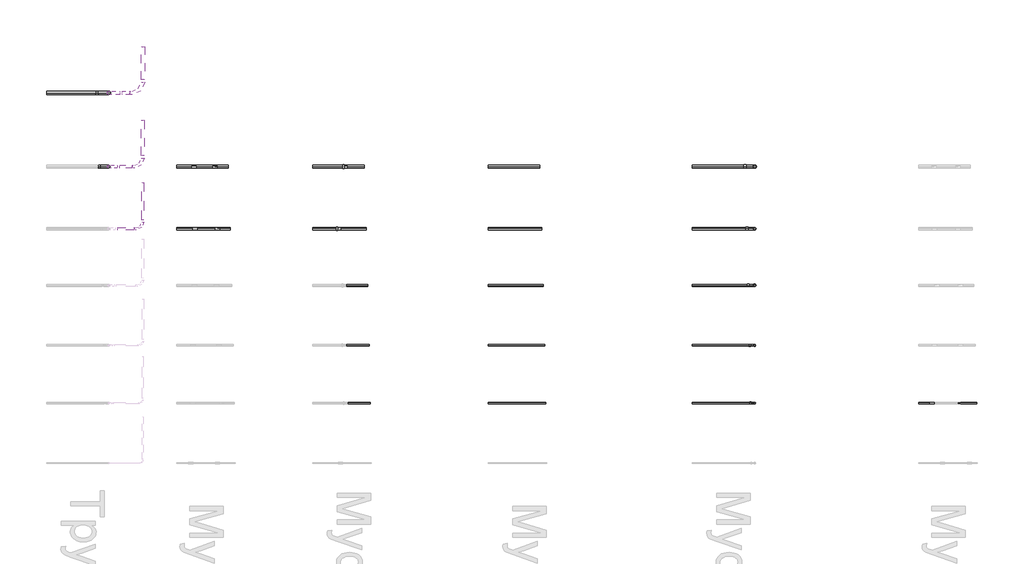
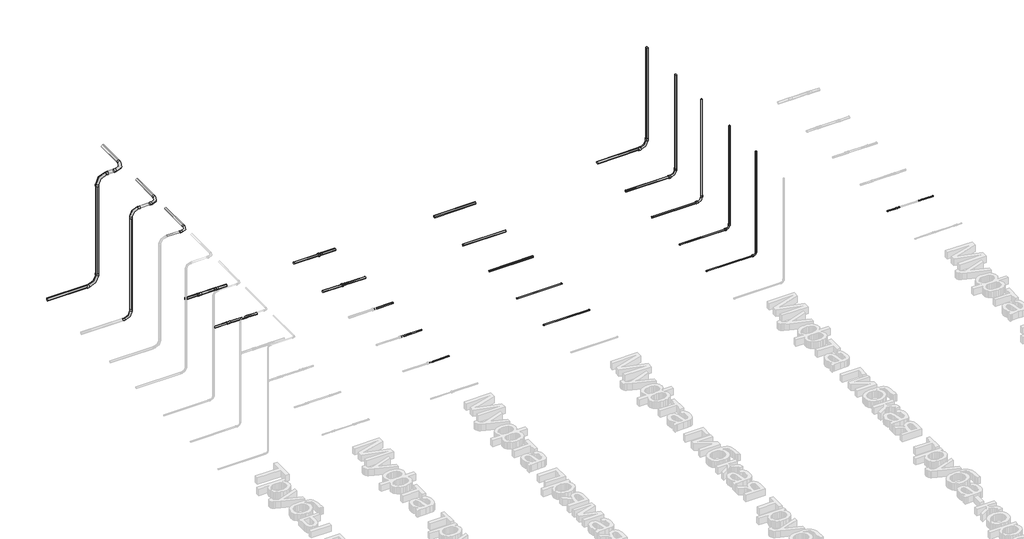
# One storey, part 3 of 33: 39 cable carrier segments, 19 cable carrier fittings.
"""IFC4 building model written with IfcOpenShell, lengths in millimetres."""

from ifc_helpers import new_model, si_unit, point, frame, frame_2d, origin, place, context, project, spatial, circle_curve, trimmed, segment, composite_curve, outline, extrude, transform, mapped, element, save
from components import cable_carrier_fitting_6d3d2407, cable_carrier_fitting_cf892bee, cable_carrier_fitting_59e1ce25, cable_carrier_fitting_115ec05a, cable_carrier_fitting_ce611bea, cable_carrier_fitting_d8a5bbfc, cable_carrier_fitting_d79e1a75, cable_carrier_fitting_36980800, cable_carrier_fitting_822ce13a, cable_carrier_fitting_3f3ece2e, cable_carrier_fitting_24dc891e, cable_carrier_fitting_b2184ef0, cable_carrier_fitting_5bff6149

model = new_model("IFC4")

# Units and contexts
model_context = context("Model", 3, world=origin())
ifc_project = project(units=[si_unit("LENGTHUNIT", "METRE", prefix="MILLI")], contexts=[model_context])

# Site, building, storey
site = spatial("IfcSite", under=ifc_project)
building = spatial("IfcBuilding", under=site)
storey = spatial("IfcBuildingStorey", under=building, Name="Уровень 1", Elevation=0.0)

# Cable carrier fittings
placement = place(None, origin())
cable_carrier_fitting_shape = cable_carrier_fitting_6d3d2407(model_context)
element("IfcCableCarrierFitting", 1, ObjectType="Муфта труба-труба GIG IEK : CTA10D-GIG40-K41-020", at=placement, inside=storey, context=model_context, shape_type="MappedRepresentation", body=[
    mapped(cable_carrier_fitting_shape, transform((5316.9896272, 4107.6255993, 45.929251), x_axis=(1.0, 0.0, 0.0), y_axis=(0.0, 1.0, 0.0), z_axis=(0.0, 0.0, 1.0))),
])
element("IfcCableCarrierFitting", 2, ObjectType="Муфта труба-труба GIG IEK : CTA10D-GIG40-K41-020", at=placement, inside=storey, context=model_context, shape_type="MappedRepresentation", body=[
    mapped(cable_carrier_fitting_shape, transform((5710.1466124, 4107.6255993, 45.929251), x_axis=(1.0, 0.0, 0.0), y_axis=(0.0, 1.0, 0.0), z_axis=(0.0, 0.0, 1.0))),
])
cable_carrier_fitting_2_shape = cable_carrier_fitting_cf892bee(model_context)
element("IfcCableCarrierFitting", 3, ObjectType="Муфта труба-труба GIG IEK : CTA10D-GIG50-K41-020", at=placement, inside=storey, context=model_context, shape_type="MappedRepresentation", body=[
    mapped(cable_carrier_fitting_2_shape, transform((5300.709765, 5207.6255993, 45.929251), x_axis=(1.0, 0.0, 0.0), y_axis=(0.0, 1.0, 0.0), z_axis=(0.0, 0.0, 1.0))),
])
element("IfcCableCarrierFitting", 4, ObjectType="Муфта труба-труба GIG IEK : CTA10D-GIG50-K41-020", at=placement, inside=storey, context=model_context, shape_type="MappedRepresentation", body=[
    mapped(cable_carrier_fitting_2_shape, transform((5670.3309234, 5207.6255993, 45.929251), x_axis=(1.0, 0.0, 0.0), y_axis=(0.0, 1.0, 0.0), z_axis=(0.0, 0.0, 1.0))),
])
cable_carrier_fitting_3_shape = cable_carrier_fitting_59e1ce25(model_context)
element("IfcCableCarrierFitting", 5, ObjectType="Муфта труба-труба IP65 MS : CTA10D-MS20-K41-050", at=placement, inside=storey, context=model_context, shape_type="MappedRepresentation", body=[
    mapped(cable_carrier_fitting_3_shape, transform((18323.8944171, 1027.6255993, 45.929251), x_axis=(1.0, 0.0, 0.0), y_axis=(0.0, 1.0, 0.0), z_axis=(0.0, 0.0, 1.0))),
])
cable_carrier_fitting_4_shape = cable_carrier_fitting_115ec05a(model_context)
element("IfcCableCarrierFitting", 6, ObjectType="Муфта прямая труба-коробка BS : CTA10D-BS40-K41-025", at=placement, inside=storey, context=model_context, shape_type="MappedRepresentation", body=[
    mapped(cable_carrier_fitting_4_shape, transform((7850.2312344, 4107.6255993, 45.929251), x_axis=(0.9999999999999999, 0.0, 0.0), y_axis=(0.0, 0.9999999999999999, 0.0), z_axis=(0.0, 0.0, 0.9999999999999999))),
])
cable_carrier_fitting_5_shape = cable_carrier_fitting_ce611bea(model_context)
element("IfcCableCarrierFitting", 7, ObjectType="Муфта прямая труба-коробка BS : CTA10D-BS50-K41-015", at=placement, inside=storey, context=model_context, shape_type="MappedRepresentation", body=[
    mapped(cable_carrier_fitting_5_shape, transform((7966.70062, 5207.6255993, 45.929251), x_axis=(0.9999999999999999, 0.0, 0.0), y_axis=(0.0, 0.9999999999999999, 0.0), z_axis=(0.0, 0.0, 0.9999999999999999))),
])
cable_carrier_fitting_6_shape = cable_carrier_fitting_d8a5bbfc(model_context)
element("IfcCableCarrierFitting", 8, ObjectType="Отвод Трубы гладкие жесткие ПВХ : Отвод Трубы гладкие жесткие ПВХ", at=placement, inside=storey, context=model_context, shape_type="MappedRepresentation", body=[
    mapped(cable_carrier_fitting_6_shape, transform((4394.4472755, 4107.6255993, 2545.929251), x_axis=(1.0, 0.0, 0.0), y_axis=(0.0, 1.0, 0.0), z_axis=(0.0, 0.0, 1.0))),
])
cable_carrier_fitting_7_shape = cable_carrier_fitting_d79e1a75(model_context)
element("IfcCableCarrierFitting", 9, ObjectType="Отвод Трубы гладкие жесткие ПВХ : Отвод Трубы гладкие жесткие ПВХ", at=placement, inside=storey, context=model_context, shape_type="MappedRepresentation", body=[
    mapped(cable_carrier_fitting_7_shape, transform((3794.4472755, 5207.6255993, 45.929251), x_axis=(1.0, 0.0, 0.0), y_axis=(0.0, 0.0, 1.0), z_axis=(0.0, -1.0, 0.0))),
])
element("IfcCableCarrierFitting", 10, ObjectType="Отвод Трубы гладкие жесткие ПВХ : Отвод Трубы гладкие жесткие ПВХ", at=placement, inside=storey, context=model_context, shape_type="MappedRepresentation", body=[
    mapped(cable_carrier_fitting_7_shape, transform((3794.4472755, 5207.6255993, 2545.929251), x_axis=(0.0, 0.0, 1.0), y_axis=(1.0, 0.0, 0.0), z_axis=(0.0, 1.0, 0.0))),
])
element("IfcCableCarrierFitting", 11, ObjectType="Отвод Трубы гладкие жесткие ПВХ : Отвод Трубы гладкие жесткие ПВХ", at=placement, inside=storey, context=model_context, shape_type="MappedRepresentation", body=[
    mapped(cable_carrier_fitting_7_shape, transform((4394.4472755, 5207.6255993, 2545.929251), x_axis=(1.0, 0.0, 0.0), y_axis=(0.0, 1.0, 0.0), z_axis=(0.0, 0.0, 1.0))),
])
cable_carrier_fitting_8_shape = cable_carrier_fitting_36980800(model_context)
element("IfcCableCarrierFitting", 12, ObjectType="Отвод Трубы гладкие жесткие ПВХ : Отвод Трубы гладкие жесткие ПВХ", at=placement, inside=storey, context=model_context, shape_type="MappedRepresentation", body=[
    mapped(cable_carrier_fitting_8_shape, transform((3794.4472755, 6507.6255993, 45.929251), x_axis=(1.0, 0.0, 0.0), y_axis=(0.0, 0.0, 1.0), z_axis=(0.0, -1.0, 0.0))),
])
element("IfcCableCarrierFitting", 13, ObjectType="Отвод Трубы гладкие жесткие ПВХ : Отвод Трубы гладкие жесткие ПВХ", at=placement, inside=storey, context=model_context, shape_type="MappedRepresentation", body=[
    mapped(cable_carrier_fitting_8_shape, transform((3794.4472755, 6507.6255993, 2545.929251), x_axis=(0.0, 0.0, 1.0), y_axis=(1.0, 0.0, 0.0), z_axis=(0.0, 1.0, 0.0))),
])
element("IfcCableCarrierFitting", 14, ObjectType="Отвод Трубы гладкие жесткие ПВХ : Отвод Трубы гладкие жесткие ПВХ", at=placement, inside=storey, context=model_context, shape_type="MappedRepresentation", body=[
    mapped(cable_carrier_fitting_8_shape, transform((4394.4472755, 6507.6255993, 2545.929251), x_axis=(1.0, 0.0, 0.0), y_axis=(0.0, 1.0, 0.0), z_axis=(0.0, 0.0, 1.0))),
])
cable_carrier_fitting_9_shape = cable_carrier_fitting_822ce13a(model_context)
element("IfcCableCarrierFitting", 15, ObjectType="Муфта гибкая труба-коробка CXS : Муфта гибкая труба-коробка CXS", at=placement, inside=storey, context=model_context, shape_type="MappedRepresentation", body=[
    mapped(cable_carrier_fitting_9_shape, transform((15194.4472755, 1027.6255993, 45.929251), x_axis=(1.0, 0.0, 0.0), y_axis=(0.0, 0.0, 1.0), z_axis=(0.0, -1.0, 0.0))),
])
cable_carrier_fitting_10_shape = cable_carrier_fitting_3f3ece2e(model_context)
element("IfcCableCarrierFitting", 16, ObjectType="Муфта гибкая труба-коробка CXS : Муфта гибкая труба-коробка CXS", at=placement, inside=storey, context=model_context, shape_type="MappedRepresentation", body=[
    mapped(cable_carrier_fitting_10_shape, transform((15194.4472755, 2047.6255993, 45.929251), x_axis=(1.0, 0.0, 0.0), y_axis=(0.0, 0.0, 1.0), z_axis=(0.0, -1.0, 0.0))),
])
cable_carrier_fitting_11_shape = cable_carrier_fitting_24dc891e(model_context)
element("IfcCableCarrierFitting", 17, ObjectType="Муфта гибкая труба-коробка CXS : Муфта гибкая труба-коробка CXS", at=placement, inside=storey, context=model_context, shape_type="MappedRepresentation", body=[
    mapped(cable_carrier_fitting_11_shape, transform((15194.4472755, 3107.6255993, 45.929251), x_axis=(1.0, 0.0, 0.0), y_axis=(0.0, 0.0, 1.0), z_axis=(0.0, -1.0, 0.0))),
])
cable_carrier_fitting_12_shape = cable_carrier_fitting_b2184ef0(model_context)
element("IfcCableCarrierFitting", 18, ObjectType="Муфта гибкая труба-коробка CXS : Муфта гибкая труба-коробка CXS", at=placement, inside=storey, context=model_context, shape_type="MappedRepresentation", body=[
    mapped(cable_carrier_fitting_12_shape, transform((15194.4472755, 4107.6255993, 45.929251), x_axis=(1.0, 0.0, 0.0), y_axis=(0.0, 0.0, 1.0), z_axis=(0.0, -1.0, 0.0))),
])
cable_carrier_fitting_13_shape = cable_carrier_fitting_5bff6149(model_context)
element("IfcCableCarrierFitting", 19, ObjectType="Муфта гибкая труба-коробка CXS : Муфта гибкая труба-коробка CXS", at=placement, inside=storey, context=model_context, shape_type="MappedRepresentation", body=[
    mapped(cable_carrier_fitting_13_shape, transform((15194.4472755, 5207.6255993, 45.929251), x_axis=(1.0, 0.0, 0.0), y_axis=(0.0, 0.0, 1.0), z_axis=(0.0, -1.0, 0.0))),
])

# Cable carrier segments
element("IfcCableCarrierSegment", 20, ObjectType="Трубы гладкие жесткие ПВХ", at=placement, inside=storey, context=model_context, shape_type="SweptSolid", body=[
    extrude(outline(composite_curve([segment(trimmed(circle_curve(frame_2d((4107.6255993, 2545.929251)), 20.0), [point((4087.6255993, 2545.929251))], [point((4107.6255993, 2565.929251))], False, "CARTESIAN"), True, "CONTINUOUS"), segment(trimmed(circle_curve(frame_2d((4107.6255993, 2545.929251)), 20.0), [point((4107.6255993, 2565.929251))], [point((4127.6255993, 2545.929251))], False, "CARTESIAN"), True, "CONTINUOUS"), segment(trimmed(circle_curve(frame_2d((4107.6255993, 2545.929251)), 20.0), [point((4127.6255993, 2545.929251))], [point((4107.6255993, 2525.929251))], False, "CARTESIAN"), True, "CONTINUOUS"), segment(trimmed(circle_curve(frame_2d((4107.6255993, 2545.929251)), 20.0), [point((4107.6255993, 2525.929251))], [point((4087.6255993, 2545.929251))], False, "CARTESIAN"), True, "CONTINUOUS")], self_intersect=False)), frame((3950.5302755, 0.0, 0.0), z_axis=(1.0, 0.0, 0.0), x_axis=(0.0, 1.0, 0.0)), (0.0, 0.0, 1.0), 287.834),
])
element("IfcCableCarrierSegment", 21, ObjectType="Трубы гладкие жесткие ПВХ", at=placement, inside=storey, context=model_context, shape_type="SweptSolid", body=[
    extrude(outline(composite_curve([segment(trimmed(circle_curve(frame_2d((2545.929251, 4394.4472755)), 20.0), [point((2545.929251, 4414.4472755))], [point((2565.929251, 4394.4472755))], False, "CARTESIAN"), True, "CONTINUOUS"), segment(trimmed(circle_curve(frame_2d((2545.929251, 4394.4472755)), 20.0), [point((2565.929251, 4394.4472755))], [point((2545.929251, 4374.4472755))], False, "CARTESIAN"), True, "CONTINUOUS"), segment(trimmed(circle_curve(frame_2d((2545.929251, 4394.4472755)), 20.0), [point((2545.929251, 4374.4472755))], [point((2525.929251, 4394.4472755))], False, "CARTESIAN"), True, "CONTINUOUS"), segment(trimmed(circle_curve(frame_2d((2545.929251, 4394.4472755)), 20.0), [point((2525.929251, 4394.4472755))], [point((2545.929251, 4414.4472755))], False, "CARTESIAN"), True, "CONTINUOUS")], self_intersect=False)), frame((0.0, 4263.7085993, 0.0), z_axis=(0.0, 1.0, 0.0), x_axis=(0.0, 0.0, 1.0)), (0.0, 0.0, 1.0), 663.917),
])
element("IfcCableCarrierSegment", 22, ObjectType="Трубы гладкие жесткие ПВХ", at=placement, inside=storey, context=model_context, shape_type="SweptSolid", body=[
    extrude(outline(composite_curve([segment(trimmed(circle_curve(frame_2d((5207.6255993, 2545.929251)), 25.0), [point((5182.6255993, 2545.929251))], [point((5207.6255993, 2570.929251))], False, "CARTESIAN"), True, "CONTINUOUS"), segment(trimmed(circle_curve(frame_2d((5207.6255993, 2545.929251)), 25.0), [point((5207.6255993, 2570.929251))], [point((5232.6255993, 2545.929251))], False, "CARTESIAN"), True, "CONTINUOUS"), segment(trimmed(circle_curve(frame_2d((5207.6255993, 2545.929251)), 25.0), [point((5232.6255993, 2545.929251))], [point((5207.6255993, 2520.929251))], False, "CARTESIAN"), True, "CONTINUOUS"), segment(trimmed(circle_curve(frame_2d((5207.6255993, 2545.929251)), 25.0), [point((5207.6255993, 2520.929251))], [point((5182.6255993, 2545.929251))], False, "CARTESIAN"), True, "CONTINUOUS")], self_intersect=False)), frame((3984.9218755, 0.0, 0.0), z_axis=(1.0, 0.0, 0.0), x_axis=(0.0, 1.0, 0.0)), (0.0, 0.0, 1.0), 219.0508),
])
element("IfcCableCarrierSegment", 23, ObjectType="Трубы гладкие жесткие ПВХ", at=placement, inside=storey, context=model_context, shape_type="SweptSolid", body=[
    extrude(outline(composite_curve([segment(trimmed(circle_curve(frame_2d((3794.4472755, 5207.6255993)), 25.0), [point((3769.4472755, 5207.6255993))], [point((3794.4472755, 5232.6255993))], False, "CARTESIAN"), True, "CONTINUOUS"), segment(trimmed(circle_curve(frame_2d((3794.4472755, 5207.6255993)), 25.0), [point((3794.4472755, 5232.6255993))], [point((3819.4472755, 5207.6255993))], False, "CARTESIAN"), True, "CONTINUOUS"), segment(trimmed(circle_curve(frame_2d((3794.4472755, 5207.6255993)), 25.0), [point((3819.4472755, 5207.6255993))], [point((3794.4472755, 5182.6255993))], False, "CARTESIAN"), True, "CONTINUOUS"), segment(trimmed(circle_curve(frame_2d((3794.4472755, 5207.6255993)), 25.0), [point((3794.4472755, 5182.6255993))], [point((3769.4472755, 5207.6255993))], False, "CARTESIAN"), True, "CONTINUOUS")], self_intersect=False)), frame((0.0, 0.0, 236.403851), z_axis=(0.0, 0.0, 1.0), x_axis=(1.0, 0.0, 0.0)), (0.0, 0.0, 1.0), 2119.0508),
])
element("IfcCableCarrierSegment", 24, ObjectType="Трубы гладкие жесткие ПВХ", at=placement, inside=storey, context=model_context, shape_type="SweptSolid", body=[
    extrude(outline(composite_curve([segment(trimmed(circle_curve(frame_2d((2545.929251, 4394.4472755)), 25.0), [point((2545.929251, 4419.4472755))], [point((2570.929251, 4394.4472755))], False, "CARTESIAN"), True, "CONTINUOUS"), segment(trimmed(circle_curve(frame_2d((2545.929251, 4394.4472755)), 25.0), [point((2570.929251, 4394.4472755))], [point((2545.929251, 4369.4472755))], False, "CARTESIAN"), True, "CONTINUOUS"), segment(trimmed(circle_curve(frame_2d((2545.929251, 4394.4472755)), 25.0), [point((2545.929251, 4369.4472755))], [point((2520.929251, 4394.4472755))], False, "CARTESIAN"), True, "CONTINUOUS"), segment(trimmed(circle_curve(frame_2d((2545.929251, 4394.4472755)), 25.0), [point((2520.929251, 4394.4472755))], [point((2545.929251, 4419.4472755))], False, "CARTESIAN"), True, "CONTINUOUS")], self_intersect=False)), frame((0.0, 5398.1001993, 0.0), z_axis=(0.0, 1.0, 0.0), x_axis=(0.0, 0.0, 1.0)), (0.0, 0.0, 1.0), 629.5254),
])
element("IfcCableCarrierSegment", 25, ObjectType="Трубы гладкие жесткие ПВХ", at=placement, inside=storey, context=model_context, shape_type="SweptSolid", body=[
    extrude(outline(composite_curve([segment(trimmed(circle_curve(frame_2d((6507.6255993, 45.929251)), 31.5), [point((6476.1255993, 45.929251))], [point((6507.6255993, 77.429251))], False, "CARTESIAN"), True, "CONTINUOUS"), segment(trimmed(circle_curve(frame_2d((6507.6255993, 45.929251)), 31.5), [point((6507.6255993, 77.429251))], [point((6539.1255993, 45.929251))], False, "CARTESIAN"), True, "CONTINUOUS"), segment(trimmed(circle_curve(frame_2d((6507.6255993, 45.929251)), 31.5), [point((6539.1255993, 45.929251))], [point((6507.6255993, 14.429251))], False, "CARTESIAN"), True, "CONTINUOUS"), segment(trimmed(circle_curve(frame_2d((6507.6255993, 45.929251)), 31.5), [point((6507.6255993, 14.429251))], [point((6476.1255993, 45.929251))], False, "CARTESIAN"), True, "CONTINUOUS")], self_intersect=False)), frame((2694.4472755, 0.0, 0.0), z_axis=(1.0, 0.0, 0.0), x_axis=(0.0, 1.0, 0.0)), (0.0, 0.0, 1.0), 867.02),
])
element("IfcCableCarrierSegment", 26, ObjectType="Трубы гладкие жесткие ПВХ", at=placement, inside=storey, context=model_context, shape_type="SweptSolid", body=[
    extrude(outline(composite_curve([segment(trimmed(circle_curve(frame_2d((6507.6255993, 2545.929251)), 31.5), [point((6476.1255993, 2545.929251))], [point((6507.6255993, 2577.429251))], False, "CARTESIAN"), True, "CONTINUOUS"), segment(trimmed(circle_curve(frame_2d((6507.6255993, 2545.929251)), 31.5), [point((6507.6255993, 2577.429251))], [point((6539.1255993, 2545.929251))], False, "CARTESIAN"), True, "CONTINUOUS"), segment(trimmed(circle_curve(frame_2d((6507.6255993, 2545.929251)), 31.5), [point((6539.1255993, 2545.929251))], [point((6507.6255993, 2514.429251))], False, "CARTESIAN"), True, "CONTINUOUS"), segment(trimmed(circle_curve(frame_2d((6507.6255993, 2545.929251)), 31.5), [point((6507.6255993, 2514.429251))], [point((6476.1255993, 2545.929251))], False, "CARTESIAN"), True, "CONTINUOUS")], self_intersect=False)), frame((4027.4272755, 0.0, 0.0), z_axis=(1.0, 0.0, 0.0), x_axis=(0.0, 1.0, 0.0)), (0.0, 0.0, 1.0), 134.04),
])
element("IfcCableCarrierSegment", 27, ObjectType="Трубы гладкие жесткие ПВХ", at=placement, inside=storey, context=model_context, shape_type="SweptSolid", body=[
    extrude(outline(composite_curve([segment(trimmed(circle_curve(frame_2d((3794.4472755, 6507.6255993)), 31.5), [point((3762.9472755, 6507.6255993))], [point((3794.4472755, 6539.1255993))], False, "CARTESIAN"), True, "CONTINUOUS"), segment(trimmed(circle_curve(frame_2d((3794.4472755, 6507.6255993)), 31.5), [point((3794.4472755, 6539.1255993))], [point((3825.9472755, 6507.6255993))], False, "CARTESIAN"), True, "CONTINUOUS"), segment(trimmed(circle_curve(frame_2d((3794.4472755, 6507.6255993)), 31.5), [point((3825.9472755, 6507.6255993))], [point((3794.4472755, 6476.1255993))], False, "CARTESIAN"), True, "CONTINUOUS"), segment(trimmed(circle_curve(frame_2d((3794.4472755, 6507.6255993)), 31.5), [point((3794.4472755, 6476.1255993))], [point((3762.9472755, 6507.6255993))], False, "CARTESIAN"), True, "CONTINUOUS")], self_intersect=False)), frame((0.0, 0.0, 278.909251), z_axis=(0.0, 0.0, 1.0), x_axis=(1.0, 0.0, 0.0)), (0.0, 0.0, 1.0), 2034.04),
])
element("IfcCableCarrierSegment", 28, ObjectType="Трубы гладкие жесткие ПВХ", at=placement, inside=storey, context=model_context, shape_type="SweptSolid", body=[
    extrude(outline(composite_curve([segment(trimmed(circle_curve(frame_2d((2545.929251, 4394.4472755)), 31.5), [point((2545.929251, 4425.9472755))], [point((2577.429251, 4394.4472755))], False, "CARTESIAN"), True, "CONTINUOUS"), segment(trimmed(circle_curve(frame_2d((2545.929251, 4394.4472755)), 31.5), [point((2577.429251, 4394.4472755))], [point((2545.929251, 4362.9472755))], False, "CARTESIAN"), True, "CONTINUOUS"), segment(trimmed(circle_curve(frame_2d((2545.929251, 4394.4472755)), 31.5), [point((2545.929251, 4362.9472755))], [point((2514.429251, 4394.4472755))], False, "CARTESIAN"), True, "CONTINUOUS"), segment(trimmed(circle_curve(frame_2d((2545.929251, 4394.4472755)), 31.5), [point((2514.429251, 4394.4472755))], [point((2545.929251, 4425.9472755))], False, "CARTESIAN"), True, "CONTINUOUS")], self_intersect=False)), frame((0.0, 6740.6055993, 0.0), z_axis=(0.0, 1.0, 0.0), x_axis=(0.0, 0.0, 1.0)), (0.0, 0.0, 1.0), 587.02),
])
element("IfcCableCarrierSegment", 29, ObjectType="Трубы гладкие жесткие ПВХ", at=placement, inside=storey, context=model_context, shape_type="SweptSolid", body=[
    extrude(outline(composite_curve([segment(trimmed(circle_curve(frame_2d((4107.6255993, 45.929251)), 20.0), [point((4087.6255993, 45.929251))], [point((4107.6255993, 65.929251))], False, "CARTESIAN"), True, "CONTINUOUS"), segment(trimmed(circle_curve(frame_2d((4107.6255993, 45.929251)), 20.0), [point((4107.6255993, 65.929251))], [point((4127.6255993, 45.929251))], False, "CARTESIAN"), True, "CONTINUOUS"), segment(trimmed(circle_curve(frame_2d((4107.6255993, 45.929251)), 20.0), [point((4127.6255993, 45.929251))], [point((4107.6255993, 25.929251))], False, "CARTESIAN"), True, "CONTINUOUS"), segment(trimmed(circle_curve(frame_2d((4107.6255993, 45.929251)), 20.0), [point((4107.6255993, 25.929251))], [point((4087.6255993, 45.929251))], False, "CARTESIAN"), True, "CONTINUOUS")], self_intersect=False)), frame((5715.1466124, 0.0, 0.0), z_axis=(1.0, 0.0, 0.0), x_axis=(0.0, 1.0, 0.0)), (0.0, 0.0, 1.0), 223.2176631),
])
element("IfcCableCarrierSegment", 30, ObjectType="Трубы гладкие жесткие ПВХ", at=placement, inside=storey, context=model_context, shape_type="SweptSolid", body=[
    extrude(outline(composite_curve([segment(trimmed(circle_curve(frame_2d((5207.6255993, 45.929251)), 25.0), [point((5182.6255993, 45.929251))], [point((5207.6255993, 70.929251))], False, "CARTESIAN"), True, "CONTINUOUS"), segment(trimmed(circle_curve(frame_2d((5207.6255993, 45.929251)), 25.0), [point((5207.6255993, 70.929251))], [point((5232.6255993, 45.929251))], False, "CARTESIAN"), True, "CONTINUOUS"), segment(trimmed(circle_curve(frame_2d((5207.6255993, 45.929251)), 25.0), [point((5232.6255993, 45.929251))], [point((5207.6255993, 20.929251))], False, "CARTESIAN"), True, "CONTINUOUS"), segment(trimmed(circle_curve(frame_2d((5207.6255993, 45.929251)), 25.0), [point((5207.6255993, 20.929251))], [point((5182.6255993, 45.929251))], False, "CARTESIAN"), True, "CONTINUOUS")], self_intersect=False)), frame((5675.3309234, 0.0, 0.0), z_axis=(1.0, 0.0, 0.0), x_axis=(0.0, 1.0, 0.0)), (0.0, 0.0, 1.0), 228.641752),
])
element("IfcCableCarrierSegment", 31, ObjectType="Трубы гладкие жесткие ПВХ", at=placement, inside=storey, context=model_context, shape_type="SweptSolid", body=[
    extrude(outline(composite_curve([segment(trimmed(circle_curve(frame_2d((4107.6255993, 45.929251)), 20.0), [point((4087.6255993, 45.929251))], [point((4107.6255993, 65.929251))], False, "CARTESIAN"), True, "CONTINUOUS"), segment(trimmed(circle_curve(frame_2d((4107.6255993, 45.929251)), 20.0), [point((4107.6255993, 65.929251))], [point((4127.6255993, 45.929251))], False, "CARTESIAN"), True, "CONTINUOUS"), segment(trimmed(circle_curve(frame_2d((4107.6255993, 45.929251)), 20.0), [point((4127.6255993, 45.929251))], [point((4107.6255993, 25.929251))], False, "CARTESIAN"), True, "CONTINUOUS"), segment(trimmed(circle_curve(frame_2d((4107.6255993, 45.929251)), 20.0), [point((4107.6255993, 25.929251))], [point((4087.6255993, 45.929251))], False, "CARTESIAN"), True, "CONTINUOUS")], self_intersect=False)), frame((4994.4472755, 0.0, 0.0), z_axis=(1.0, 0.0, 0.0), x_axis=(0.0, 1.0, 0.0)), (0.0, 0.0, 1.0), 317.5423517),
])
element("IfcCableCarrierSegment", 32, ObjectType="Трубы гладкие жесткие ПВХ", at=placement, inside=storey, context=model_context, shape_type="SweptSolid", body=[
    extrude(outline(composite_curve([segment(trimmed(circle_curve(frame_2d((4107.6255993, 45.929251)), 20.0), [point((4087.6255993, 45.929251))], [point((4107.6255993, 65.929251))], False, "CARTESIAN"), True, "CONTINUOUS"), segment(trimmed(circle_curve(frame_2d((4107.6255993, 45.929251)), 20.0), [point((4107.6255993, 65.929251))], [point((4127.6255993, 45.929251))], False, "CARTESIAN"), True, "CONTINUOUS"), segment(trimmed(circle_curve(frame_2d((4107.6255993, 45.929251)), 20.0), [point((4127.6255993, 45.929251))], [point((4107.6255993, 25.929251))], False, "CARTESIAN"), True, "CONTINUOUS"), segment(trimmed(circle_curve(frame_2d((4107.6255993, 45.929251)), 20.0), [point((4107.6255993, 25.929251))], [point((4087.6255993, 45.929251))], False, "CARTESIAN"), True, "CONTINUOUS")], self_intersect=False)), frame((5321.9896272, 0.0, 0.0), z_axis=(1.0, 0.0, 0.0), x_axis=(0.0, 1.0, 0.0)), (0.0, 0.0, 1.0), 383.1569852),
])
element("IfcCableCarrierSegment", 33, ObjectType="Трубы гладкие жесткие ПВХ", at=placement, inside=storey, context=model_context, shape_type="SweptSolid", body=[
    extrude(outline(composite_curve([segment(trimmed(circle_curve(frame_2d((5207.6255993, 45.929251)), 25.0), [point((5182.6255993, 45.929251))], [point((5207.6255993, 70.929251))], False, "CARTESIAN"), True, "CONTINUOUS"), segment(trimmed(circle_curve(frame_2d((5207.6255993, 45.929251)), 25.0), [point((5207.6255993, 70.929251))], [point((5232.6255993, 45.929251))], False, "CARTESIAN"), True, "CONTINUOUS"), segment(trimmed(circle_curve(frame_2d((5207.6255993, 45.929251)), 25.0), [point((5232.6255993, 45.929251))], [point((5207.6255993, 20.929251))], False, "CARTESIAN"), True, "CONTINUOUS"), segment(trimmed(circle_curve(frame_2d((5207.6255993, 45.929251)), 25.0), [point((5207.6255993, 20.929251))], [point((5182.6255993, 45.929251))], False, "CARTESIAN"), True, "CONTINUOUS")], self_intersect=False)), frame((4994.4472755, 0.0, 0.0), z_axis=(1.0, 0.0, 0.0), x_axis=(0.0, 1.0, 0.0)), (0.0, 0.0, 1.0), 301.2624895),
])
element("IfcCableCarrierSegment", 34, ObjectType="Трубы гладкие жесткие ПВХ", at=placement, inside=storey, context=model_context, shape_type="SweptSolid", body=[
    extrude(outline(composite_curve([segment(trimmed(circle_curve(frame_2d((5207.6255993, 45.929251)), 25.0), [point((5182.6255993, 45.929251))], [point((5207.6255993, 70.929251))], False, "CARTESIAN"), True, "CONTINUOUS"), segment(trimmed(circle_curve(frame_2d((5207.6255993, 45.929251)), 25.0), [point((5207.6255993, 70.929251))], [point((5232.6255993, 45.929251))], False, "CARTESIAN"), True, "CONTINUOUS"), segment(trimmed(circle_curve(frame_2d((5207.6255993, 45.929251)), 25.0), [point((5232.6255993, 45.929251))], [point((5207.6255993, 20.929251))], False, "CARTESIAN"), True, "CONTINUOUS"), segment(trimmed(circle_curve(frame_2d((5207.6255993, 45.929251)), 25.0), [point((5207.6255993, 20.929251))], [point((5182.6255993, 45.929251))], False, "CARTESIAN"), True, "CONTINUOUS")], self_intersect=False)), frame((5305.709765, 0.0, 0.0), z_axis=(1.0, 0.0, 0.0), x_axis=(0.0, 1.0, 0.0)), (0.0, 0.0, 1.0), 359.6211584),
])
element("IfcCableCarrierSegment", 35, ObjectType="Трубы гладкие жесткие ПВХ", at=placement, inside=storey, context=model_context, shape_type="SweptSolid", body=[
    extrude(outline(composite_curve([segment(trimmed(circle_curve(frame_2d((1027.6255993, 45.929251)), 10.0), [point((1017.6255993, 45.929251))], [point((1027.6255993, 55.929251))], False, "CARTESIAN"), True, "CONTINUOUS"), segment(trimmed(circle_curve(frame_2d((1027.6255993, 45.929251)), 10.0), [point((1027.6255993, 55.929251))], [point((1037.6255993, 45.929251))], False, "CARTESIAN"), True, "CONTINUOUS"), segment(trimmed(circle_curve(frame_2d((1027.6255993, 45.929251)), 10.0), [point((1037.6255993, 45.929251))], [point((1027.6255993, 35.929251))], False, "CARTESIAN"), True, "CONTINUOUS"), segment(trimmed(circle_curve(frame_2d((1027.6255993, 45.929251)), 10.0), [point((1027.6255993, 35.929251))], [point((1017.6255993, 45.929251))], False, "CARTESIAN"), True, "CONTINUOUS")], self_intersect=False)), frame((7972.6618975, 0.0, 0.0), z_axis=(1.0, 0.0, 0.0), x_axis=(0.0, 1.0, 0.0)), (0.0, 0.0, 1.0), 438.295578),
])
element("IfcCableCarrierSegment", 36, ObjectType="Трубы гладкие жесткие ПВХ", at=placement, inside=storey, context=model_context, shape_type="SweptSolid", body=[
    extrude(outline(composite_curve([segment(trimmed(circle_curve(frame_2d((2047.6255993, 45.929251)), 12.5), [point((2035.1255993, 45.929251))], [point((2047.6255993, 58.429251))], False, "CARTESIAN"), True, "CONTINUOUS"), segment(trimmed(circle_curve(frame_2d((2047.6255993, 45.929251)), 12.5), [point((2047.6255993, 58.429251))], [point((2060.1255993, 45.929251))], False, "CARTESIAN"), True, "CONTINUOUS"), segment(trimmed(circle_curve(frame_2d((2047.6255993, 45.929251)), 12.5), [point((2060.1255993, 45.929251))], [point((2047.6255993, 33.429251))], False, "CARTESIAN"), True, "CONTINUOUS"), segment(trimmed(circle_curve(frame_2d((2047.6255993, 45.929251)), 12.5), [point((2047.6255993, 33.429251))], [point((2035.1255993, 45.929251))], False, "CARTESIAN"), True, "CONTINUOUS")], self_intersect=False)), frame((7946.490316, 0.0, 0.0), z_axis=(1.0, 0.0, 0.0), x_axis=(0.0, 1.0, 0.0)), (0.0, 0.0, 1.0), 445.0615595),
])
element("IfcCableCarrierSegment", 37, ObjectType="Трубы гладкие жесткие ПВХ", at=placement, inside=storey, context=model_context, shape_type="SweptSolid", body=[
    extrude(outline(composite_curve([segment(trimmed(circle_curve(frame_2d((3107.6255993, 45.929251)), 16.0), [point((3091.6255993, 45.929251))], [point((3107.6255993, 61.929251))], False, "CARTESIAN"), True, "CONTINUOUS"), segment(trimmed(circle_curve(frame_2d((3107.6255993, 45.929251)), 16.0), [point((3107.6255993, 61.929251))], [point((3123.6255993, 45.929251))], False, "CARTESIAN"), True, "CONTINUOUS"), segment(trimmed(circle_curve(frame_2d((3107.6255993, 45.929251)), 16.0), [point((3123.6255993, 45.929251))], [point((3107.6255993, 29.929251))], False, "CARTESIAN"), True, "CONTINUOUS"), segment(trimmed(circle_curve(frame_2d((3107.6255993, 45.929251)), 16.0), [point((3107.6255993, 29.929251))], [point((3091.6255993, 45.929251))], False, "CARTESIAN"), True, "CONTINUOUS")], self_intersect=False)), frame((7953.3854169, 0.0, 0.0), z_axis=(1.0, 0.0, 0.0), x_axis=(0.0, 1.0, 0.0)), (0.0, 0.0, 1.0), 412.7918586),
])
element("IfcCableCarrierSegment", 38, ObjectType="Трубы гладкие жесткие ПВХ", at=placement, inside=storey, context=model_context, shape_type="SweptSolid", body=[
    extrude(outline(composite_curve([segment(trimmed(circle_curve(frame_2d((4107.6255993, 45.929251)), 20.0), [point((4087.6255993, 45.929251))], [point((4107.6255993, 65.929251))], False, "CARTESIAN"), True, "CONTINUOUS"), segment(trimmed(circle_curve(frame_2d((4107.6255993, 45.929251)), 20.0), [point((4107.6255993, 65.929251))], [point((4127.6255993, 45.929251))], False, "CARTESIAN"), True, "CONTINUOUS"), segment(trimmed(circle_curve(frame_2d((4107.6255993, 45.929251)), 20.0), [point((4127.6255993, 45.929251))], [point((4107.6255993, 25.929251))], False, "CARTESIAN"), True, "CONTINUOUS"), segment(trimmed(circle_curve(frame_2d((4107.6255993, 45.929251)), 20.0), [point((4107.6255993, 25.929251))], [point((4087.6255993, 45.929251))], False, "CARTESIAN"), True, "CONTINUOUS")], self_intersect=False)), frame((7855.2312344, 0.0, 0.0), z_axis=(1.0, 0.0, 0.0), x_axis=(0.0, 1.0, 0.0)), (0.0, 0.0, 1.0), 483.1330411),
])
element("IfcCableCarrierSegment", 39, ObjectType="Трубы гладкие жесткие ПВХ", at=placement, inside=storey, context=model_context, shape_type="SweptSolid", body=[
    extrude(outline(composite_curve([segment(trimmed(circle_curve(frame_2d((5207.6255993, 45.929251)), 25.0), [point((5182.6255993, 45.929251))], [point((5207.6255993, 70.929251))], False, "CARTESIAN"), True, "CONTINUOUS"), segment(trimmed(circle_curve(frame_2d((5207.6255993, 45.929251)), 25.0), [point((5207.6255993, 70.929251))], [point((5232.6255993, 45.929251))], False, "CARTESIAN"), True, "CONTINUOUS"), segment(trimmed(circle_curve(frame_2d((5207.6255993, 45.929251)), 25.0), [point((5232.6255993, 45.929251))], [point((5207.6255993, 20.929251))], False, "CARTESIAN"), True, "CONTINUOUS"), segment(trimmed(circle_curve(frame_2d((5207.6255993, 45.929251)), 25.0), [point((5207.6255993, 20.929251))], [point((5182.6255993, 45.929251))], False, "CARTESIAN"), True, "CONTINUOUS")], self_intersect=False)), frame((7971.70062, 0.0, 0.0), z_axis=(1.0, 0.0, 0.0), x_axis=(0.0, 1.0, 0.0)), (0.0, 0.0, 1.0), 332.2720555),
])
element("IfcCableCarrierSegment", 40, ObjectType="Трубы гладкие жесткие ПВХ", at=placement, inside=storey, context=model_context, shape_type="SweptSolid", body=[
    extrude(outline(composite_curve([segment(trimmed(circle_curve(frame_2d((1027.6255993, 45.929251)), 10.0), [point((1017.6255993, 45.929251))], [point((1027.6255993, 55.929251))], False, "CARTESIAN"), True, "CONTINUOUS"), segment(trimmed(circle_curve(frame_2d((1027.6255993, 45.929251)), 10.0), [point((1027.6255993, 55.929251))], [point((1037.6255993, 45.929251))], False, "CARTESIAN"), True, "CONTINUOUS"), segment(trimmed(circle_curve(frame_2d((1027.6255993, 45.929251)), 10.0), [point((1037.6255993, 45.929251))], [point((1027.6255993, 35.929251))], False, "CARTESIAN"), True, "CONTINUOUS"), segment(trimmed(circle_curve(frame_2d((1027.6255993, 45.929251)), 10.0), [point((1027.6255993, 35.929251))], [point((1017.6255993, 45.929251))], False, "CARTESIAN"), True, "CONTINUOUS")], self_intersect=False)), frame((14094.4472755, 0.0, 0.0), z_axis=(1.0, 0.0, 0.0), x_axis=(0.0, 1.0, 0.0)), (0.0, 0.0, 1.0), 1016.5102),
])
element("IfcCableCarrierSegment", 41, ObjectType="Трубы гладкие жесткие ПВХ", at=placement, inside=storey, context=model_context, shape_type="SweptSolid", body=[
    extrude(outline(composite_curve([segment(trimmed(circle_curve(frame_2d((15194.4472755, 1027.6255993)), 10.0), [point((15184.4472755, 1027.6255993))], [point((15194.4472755, 1037.6255993))], False, "CARTESIAN"), True, "CONTINUOUS"), segment(trimmed(circle_curve(frame_2d((15194.4472755, 1027.6255993)), 10.0), [point((15194.4472755, 1037.6255993))], [point((15204.4472755, 1027.6255993))], False, "CARTESIAN"), True, "CONTINUOUS"), segment(trimmed(circle_curve(frame_2d((15194.4472755, 1027.6255993)), 10.0), [point((15204.4472755, 1027.6255993))], [point((15194.4472755, 1017.6255993))], False, "CARTESIAN"), True, "CONTINUOUS"), segment(trimmed(circle_curve(frame_2d((15194.4472755, 1027.6255993)), 10.0), [point((15194.4472755, 1017.6255993))], [point((15184.4472755, 1027.6255993))], False, "CARTESIAN"), True, "CONTINUOUS")], self_intersect=False)), frame((0.0, 0.0, 129.419051), z_axis=(0.0, 0.0, 1.0), x_axis=(1.0, 0.0, 0.0)), (0.0, 0.0, 1.0), 2333.0204),
])
element("IfcCableCarrierSegment", 42, ObjectType="Трубы гладкие жесткие ПВХ", at=placement, inside=storey, context=model_context, shape_type="SweptSolid", body=[
    extrude(outline(composite_curve([segment(trimmed(circle_curve(frame_2d((2047.6255993, 45.929251)), 12.5), [point((2035.1255993, 45.929251))], [point((2047.6255993, 58.429251))], False, "CARTESIAN"), True, "CONTINUOUS"), segment(trimmed(circle_curve(frame_2d((2047.6255993, 45.929251)), 12.5), [point((2047.6255993, 58.429251))], [point((2060.1255993, 45.929251))], False, "CARTESIAN"), True, "CONTINUOUS"), segment(trimmed(circle_curve(frame_2d((2047.6255993, 45.929251)), 12.5), [point((2060.1255993, 45.929251))], [point((2047.6255993, 33.429251))], False, "CARTESIAN"), True, "CONTINUOUS"), segment(trimmed(circle_curve(frame_2d((2047.6255993, 45.929251)), 12.5), [point((2047.6255993, 33.429251))], [point((2035.1255993, 45.929251))], False, "CARTESIAN"), True, "CONTINUOUS")], self_intersect=False)), frame((14094.4472755, 0.0, 0.0), z_axis=(1.0, 0.0, 0.0), x_axis=(0.0, 1.0, 0.0)), (0.0, 0.0, 1.0), 997.1046),
])
element("IfcCableCarrierSegment", 43, ObjectType="Трубы гладкие жесткие ПВХ", at=placement, inside=storey, context=model_context, shape_type="SweptSolid", body=[
    extrude(outline(composite_curve([segment(trimmed(circle_curve(frame_2d((15194.4472755, 2047.6255993)), 12.5), [point((15181.9472755, 2047.6255993))], [point((15194.4472755, 2060.1255993))], False, "CARTESIAN"), True, "CONTINUOUS"), segment(trimmed(circle_curve(frame_2d((15194.4472755, 2047.6255993)), 12.5), [point((15194.4472755, 2060.1255993))], [point((15206.9472755, 2047.6255993))], False, "CARTESIAN"), True, "CONTINUOUS"), segment(trimmed(circle_curve(frame_2d((15194.4472755, 2047.6255993)), 12.5), [point((15206.9472755, 2047.6255993))], [point((15194.4472755, 2035.1255993))], False, "CARTESIAN"), True, "CONTINUOUS"), segment(trimmed(circle_curve(frame_2d((15194.4472755, 2047.6255993)), 12.5), [point((15194.4472755, 2035.1255993))], [point((15181.9472755, 2047.6255993))], False, "CARTESIAN"), True, "CONTINUOUS")], self_intersect=False)), frame((0.0, 0.0, 148.824651), z_axis=(0.0, 0.0, 1.0), x_axis=(1.0, 0.0, 0.0)), (0.0, 0.0, 1.0), 2294.2092),
])
element("IfcCableCarrierSegment", 44, ObjectType="Трубы гладкие жесткие ПВХ", at=placement, inside=storey, context=model_context, shape_type="SweptSolid", body=[
    extrude(outline(composite_curve([segment(trimmed(circle_curve(frame_2d((3107.6255993, 45.929251)), 16.0), [point((3091.6255993, 45.929251))], [point((3107.6255993, 61.929251))], False, "CARTESIAN"), True, "CONTINUOUS"), segment(trimmed(circle_curve(frame_2d((3107.6255993, 45.929251)), 16.0), [point((3107.6255993, 61.929251))], [point((3123.6255993, 45.929251))], False, "CARTESIAN"), True, "CONTINUOUS"), segment(trimmed(circle_curve(frame_2d((3107.6255993, 45.929251)), 16.0), [point((3123.6255993, 45.929251))], [point((3107.6255993, 29.929251))], False, "CARTESIAN"), True, "CONTINUOUS"), segment(trimmed(circle_curve(frame_2d((3107.6255993, 45.929251)), 16.0), [point((3107.6255993, 29.929251))], [point((3091.6255993, 45.929251))], False, "CARTESIAN"), True, "CONTINUOUS")], self_intersect=False)), frame((14094.4472755, 0.0, 0.0), z_axis=(1.0, 0.0, 0.0), x_axis=(0.0, 1.0, 0.0)), (0.0, 0.0, 1.0), 971.73),
])
element("IfcCableCarrierSegment", 45, ObjectType="Трубы гладкие жесткие ПВХ", at=placement, inside=storey, context=model_context, shape_type="SweptSolid", body=[
    extrude(outline(composite_curve([segment(trimmed(circle_curve(frame_2d((15194.4472755, 3107.6255993)), 16.0), [point((15178.4472755, 3107.6255993))], [point((15194.4472755, 3123.6255993))], False, "CARTESIAN"), True, "CONTINUOUS"), segment(trimmed(circle_curve(frame_2d((15194.4472755, 3107.6255993)), 16.0), [point((15194.4472755, 3123.6255993))], [point((15210.4472755, 3107.6255993))], False, "CARTESIAN"), True, "CONTINUOUS"), segment(trimmed(circle_curve(frame_2d((15194.4472755, 3107.6255993)), 16.0), [point((15210.4472755, 3107.6255993))], [point((15194.4472755, 3091.6255993))], False, "CARTESIAN"), True, "CONTINUOUS"), segment(trimmed(circle_curve(frame_2d((15194.4472755, 3107.6255993)), 16.0), [point((15194.4472755, 3091.6255993))], [point((15178.4472755, 3107.6255993))], False, "CARTESIAN"), True, "CONTINUOUS")], self_intersect=False)), frame((0.0, 0.0, 174.199251), z_axis=(0.0, 0.0, 1.0), x_axis=(1.0, 0.0, 0.0)), (0.0, 0.0, 1.0), 2243.46),
])
element("IfcCableCarrierSegment", 46, ObjectType="Трубы гладкие жесткие ПВХ", at=placement, inside=storey, context=model_context, shape_type="SweptSolid", body=[
    extrude(outline(composite_curve([segment(trimmed(circle_curve(frame_2d((4107.6255993, 45.929251)), 20.0), [point((4087.6255993, 45.929251))], [point((4107.6255993, 65.929251))], False, "CARTESIAN"), True, "CONTINUOUS"), segment(trimmed(circle_curve(frame_2d((4107.6255993, 45.929251)), 20.0), [point((4107.6255993, 65.929251))], [point((4127.6255993, 45.929251))], False, "CARTESIAN"), True, "CONTINUOUS"), segment(trimmed(circle_curve(frame_2d((4107.6255993, 45.929251)), 20.0), [point((4127.6255993, 45.929251))], [point((4107.6255993, 25.929251))], False, "CARTESIAN"), True, "CONTINUOUS"), segment(trimmed(circle_curve(frame_2d((4107.6255993, 45.929251)), 20.0), [point((4107.6255993, 25.929251))], [point((4087.6255993, 45.929251))], False, "CARTESIAN"), True, "CONTINUOUS")], self_intersect=False)), frame((14094.4472755, 0.0, 0.0), z_axis=(1.0, 0.0, 0.0), x_axis=(0.0, 1.0, 0.0)), (0.0, 0.0, 1.0), 943.917),
])
element("IfcCableCarrierSegment", 47, ObjectType="Трубы гладкие жесткие ПВХ", at=placement, inside=storey, context=model_context, shape_type="SweptSolid", body=[
    extrude(outline(composite_curve([segment(trimmed(circle_curve(frame_2d((15194.4472755, 4107.6255993)), 20.0), [point((15174.4472755, 4107.6255993))], [point((15194.4472755, 4127.6255993))], False, "CARTESIAN"), True, "CONTINUOUS"), segment(trimmed(circle_curve(frame_2d((15194.4472755, 4107.6255993)), 20.0), [point((15194.4472755, 4127.6255993))], [point((15214.4472755, 4107.6255993))], False, "CARTESIAN"), True, "CONTINUOUS"), segment(trimmed(circle_curve(frame_2d((15194.4472755, 4107.6255993)), 20.0), [point((15214.4472755, 4107.6255993))], [point((15194.4472755, 4087.6255993))], False, "CARTESIAN"), True, "CONTINUOUS"), segment(trimmed(circle_curve(frame_2d((15194.4472755, 4107.6255993)), 20.0), [point((15194.4472755, 4087.6255993))], [point((15174.4472755, 4107.6255993))], False, "CARTESIAN"), True, "CONTINUOUS")], self_intersect=False)), frame((0.0, 0.0, 202.012251), z_axis=(0.0, 0.0, 1.0), x_axis=(1.0, 0.0, 0.0)), (0.0, 0.0, 1.0), 2187.834),
])
element("IfcCableCarrierSegment", 48, ObjectType="Трубы гладкие жесткие ПВХ", at=placement, inside=storey, context=model_context, shape_type="SweptSolid", body=[
    extrude(outline(composite_curve([segment(trimmed(circle_curve(frame_2d((5207.6255993, 45.929251)), 25.0), [point((5182.6255993, 45.929251))], [point((5207.6255993, 70.929251))], False, "CARTESIAN"), True, "CONTINUOUS"), segment(trimmed(circle_curve(frame_2d((5207.6255993, 45.929251)), 25.0), [point((5207.6255993, 70.929251))], [point((5232.6255993, 45.929251))], False, "CARTESIAN"), True, "CONTINUOUS"), segment(trimmed(circle_curve(frame_2d((5207.6255993, 45.929251)), 25.0), [point((5232.6255993, 45.929251))], [point((5207.6255993, 20.929251))], False, "CARTESIAN"), True, "CONTINUOUS"), segment(trimmed(circle_curve(frame_2d((5207.6255993, 45.929251)), 25.0), [point((5207.6255993, 20.929251))], [point((5182.6255993, 45.929251))], False, "CARTESIAN"), True, "CONTINUOUS")], self_intersect=False)), frame((14094.4472755, 0.0, 0.0), z_axis=(1.0, 0.0, 0.0), x_axis=(0.0, 1.0, 0.0)), (0.0, 0.0, 1.0), 909.5254),
])
element("IfcCableCarrierSegment", 49, ObjectType="Трубы гладкие жесткие ПВХ", at=placement, inside=storey, context=model_context, shape_type="SweptSolid", body=[
    extrude(outline(composite_curve([segment(trimmed(circle_curve(frame_2d((15194.4472755, 5207.6255993)), 25.0), [point((15169.4472755, 5207.6255993))], [point((15194.4472755, 5232.6255993))], False, "CARTESIAN"), True, "CONTINUOUS"), segment(trimmed(circle_curve(frame_2d((15194.4472755, 5207.6255993)), 25.0), [point((15194.4472755, 5232.6255993))], [point((15219.4472755, 5207.6255993))], False, "CARTESIAN"), True, "CONTINUOUS"), segment(trimmed(circle_curve(frame_2d((15194.4472755, 5207.6255993)), 25.0), [point((15219.4472755, 5207.6255993))], [point((15194.4472755, 5182.6255993))], False, "CARTESIAN"), True, "CONTINUOUS"), segment(trimmed(circle_curve(frame_2d((15194.4472755, 5207.6255993)), 25.0), [point((15194.4472755, 5182.6255993))], [point((15169.4472755, 5207.6255993))], False, "CARTESIAN"), True, "CONTINUOUS")], self_intersect=False)), frame((0.0, 0.0, 236.403851), z_axis=(0.0, 0.0, 1.0), x_axis=(1.0, 0.0, 0.0)), (0.0, 0.0, 1.0), 2119.0508),
])
element("IfcCableCarrierSegment", 50, ObjectType="Трубы гладкие жесткие ПВХ", at=placement, inside=storey, context=model_context, shape_type="SweptSolid", body=[
    extrude(outline(composite_curve([segment(trimmed(circle_curve(frame_2d((1027.6255993, 45.929251)), 10.0), [point((1017.6255993, 45.929251))], [point((1027.6255993, 55.929251))], False, "CARTESIAN"), True, "CONTINUOUS"), segment(trimmed(circle_curve(frame_2d((1027.6255993, 45.929251)), 10.0), [point((1027.6255993, 55.929251))], [point((1037.6255993, 45.929251))], False, "CARTESIAN"), True, "CONTINUOUS"), segment(trimmed(circle_curve(frame_2d((1027.6255993, 45.929251)), 10.0), [point((1037.6255993, 45.929251))], [point((1027.6255993, 35.929251))], False, "CARTESIAN"), True, "CONTINUOUS"), segment(trimmed(circle_curve(frame_2d((1027.6255993, 45.929251)), 10.0), [point((1027.6255993, 35.929251))], [point((1017.6255993, 45.929251))], False, "CARTESIAN"), True, "CONTINUOUS")], self_intersect=False)), frame((18791.5037048, 0.0, 0.0), z_axis=(1.0, 0.0, 0.0), x_axis=(0.0, 1.0, 0.0)), (0.0, 0.0, 1.0), 319.4537706),
])
element("IfcCableCarrierSegment", 51, ObjectType="Трубы гладкие жесткие ПВХ", at=placement, inside=storey, context=model_context, shape_type="SweptSolid", body=[
    extrude(outline(composite_curve([segment(trimmed(circle_curve(frame_2d((1027.6255993, 45.929251)), 10.0), [point((1017.6255993, 45.929251))], [point((1027.6255993, 55.929251))], False, "CARTESIAN"), True, "CONTINUOUS"), segment(trimmed(circle_curve(frame_2d((1027.6255993, 45.929251)), 10.0), [point((1027.6255993, 55.929251))], [point((1037.6255993, 45.929251))], False, "CARTESIAN"), True, "CONTINUOUS"), segment(trimmed(circle_curve(frame_2d((1027.6255993, 45.929251)), 10.0), [point((1037.6255993, 45.929251))], [point((1027.6255993, 35.929251))], False, "CARTESIAN"), True, "CONTINUOUS"), segment(trimmed(circle_curve(frame_2d((1027.6255993, 45.929251)), 10.0), [point((1027.6255993, 35.929251))], [point((1017.6255993, 45.929251))], False, "CARTESIAN"), True, "CONTINUOUS")], self_intersect=False)), frame((18094.4472755, 0.0, 0.0), z_axis=(1.0, 0.0, 0.0), x_axis=(0.0, 1.0, 0.0)), (0.0, 0.0, 1.0), 224.4471417),
])
element("IfcCableCarrierSegment", 52, ObjectType="Трубы гладкие жесткие ПВХ", at=placement, inside=storey, context=model_context, shape_type="SweptSolid", body=[
    extrude(outline(composite_curve([segment(trimmed(circle_curve(frame_2d((1027.6255993, 45.929251)), 10.0), [point((1017.6255993, 45.929251))], [point((1027.6255993, 55.929251))], False, "CARTESIAN"), True, "CONTINUOUS"), segment(trimmed(circle_curve(frame_2d((1027.6255993, 45.929251)), 10.0), [point((1027.6255993, 55.929251))], [point((1037.6255993, 45.929251))], False, "CARTESIAN"), True, "CONTINUOUS"), segment(trimmed(circle_curve(frame_2d((1027.6255993, 45.929251)), 10.0), [point((1037.6255993, 45.929251))], [point((1027.6255993, 35.929251))], False, "CARTESIAN"), True, "CONTINUOUS"), segment(trimmed(circle_curve(frame_2d((1027.6255993, 45.929251)), 10.0), [point((1027.6255993, 35.929251))], [point((1017.6255993, 45.929251))], False, "CARTESIAN"), True, "CONTINUOUS")], self_intersect=False)), frame((10494.4472755, 0.0, 0.0), z_axis=(1.0, 0.0, 0.0), x_axis=(0.0, 1.0, 0.0)), (0.0, 0.0, 1.0), 1016.5102),
])
element("IfcCableCarrierSegment", 53, ObjectType="Трубы гладкие жесткие ПВХ", at=placement, inside=storey, context=model_context, shape_type="SweptSolid", body=[
    extrude(outline(composite_curve([segment(trimmed(circle_curve(frame_2d((2047.6255993, 45.929251)), 12.5), [point((2035.1255993, 45.929251))], [point((2047.6255993, 58.429251))], False, "CARTESIAN"), True, "CONTINUOUS"), segment(trimmed(circle_curve(frame_2d((2047.6255993, 45.929251)), 12.5), [point((2047.6255993, 58.429251))], [point((2060.1255993, 45.929251))], False, "CARTESIAN"), True, "CONTINUOUS"), segment(trimmed(circle_curve(frame_2d((2047.6255993, 45.929251)), 12.5), [point((2060.1255993, 45.929251))], [point((2047.6255993, 33.429251))], False, "CARTESIAN"), True, "CONTINUOUS"), segment(trimmed(circle_curve(frame_2d((2047.6255993, 45.929251)), 12.5), [point((2047.6255993, 33.429251))], [point((2035.1255993, 45.929251))], False, "CARTESIAN"), True, "CONTINUOUS")], self_intersect=False)), frame((10494.4472755, 0.0, 0.0), z_axis=(1.0, 0.0, 0.0), x_axis=(0.0, 1.0, 0.0)), (0.0, 0.0, 1.0), 997.1046),
])
element("IfcCableCarrierSegment", 54, ObjectType="Трубы гладкие жесткие ПВХ", at=placement, inside=storey, context=model_context, shape_type="SweptSolid", body=[
    extrude(outline(composite_curve([segment(trimmed(circle_curve(frame_2d((3107.6255993, 45.929251)), 16.0), [point((3091.6255993, 45.929251))], [point((3107.6255993, 61.929251))], False, "CARTESIAN"), True, "CONTINUOUS"), segment(trimmed(circle_curve(frame_2d((3107.6255993, 45.929251)), 16.0), [point((3107.6255993, 61.929251))], [point((3123.6255993, 45.929251))], False, "CARTESIAN"), True, "CONTINUOUS"), segment(trimmed(circle_curve(frame_2d((3107.6255993, 45.929251)), 16.0), [point((3123.6255993, 45.929251))], [point((3107.6255993, 29.929251))], False, "CARTESIAN"), True, "CONTINUOUS"), segment(trimmed(circle_curve(frame_2d((3107.6255993, 45.929251)), 16.0), [point((3107.6255993, 29.929251))], [point((3091.6255993, 45.929251))], False, "CARTESIAN"), True, "CONTINUOUS")], self_intersect=False)), frame((10494.4472755, 0.0, 0.0), z_axis=(1.0, 0.0, 0.0), x_axis=(0.0, 1.0, 0.0)), (0.0, 0.0, 1.0), 971.73),
])
element("IfcCableCarrierSegment", 55, ObjectType="Трубы гладкие жесткие ПВХ", at=placement, inside=storey, context=model_context, shape_type="SweptSolid", body=[
    extrude(outline(composite_curve([segment(trimmed(circle_curve(frame_2d((4107.6255993, 45.929251)), 20.0), [point((4087.6255993, 45.929251))], [point((4107.6255993, 65.929251))], False, "CARTESIAN"), True, "CONTINUOUS"), segment(trimmed(circle_curve(frame_2d((4107.6255993, 45.929251)), 20.0), [point((4107.6255993, 65.929251))], [point((4127.6255993, 45.929251))], False, "CARTESIAN"), True, "CONTINUOUS"), segment(trimmed(circle_curve(frame_2d((4107.6255993, 45.929251)), 20.0), [point((4127.6255993, 45.929251))], [point((4107.6255993, 25.929251))], False, "CARTESIAN"), True, "CONTINUOUS"), segment(trimmed(circle_curve(frame_2d((4107.6255993, 45.929251)), 20.0), [point((4107.6255993, 25.929251))], [point((4087.6255993, 45.929251))], False, "CARTESIAN"), True, "CONTINUOUS")], self_intersect=False)), frame((10494.4472755, 0.0, 0.0), z_axis=(1.0, 0.0, 0.0), x_axis=(0.0, 1.0, 0.0)), (0.0, 0.0, 1.0), 943.917),
])
element("IfcCableCarrierSegment", 56, ObjectType="Трубы гладкие жесткие ПВХ", at=placement, inside=storey, context=model_context, shape_type="SweptSolid", body=[
    extrude(outline(composite_curve([segment(trimmed(circle_curve(frame_2d((5207.6255993, 45.929251)), 25.0), [point((5182.6255993, 45.929251))], [point((5207.6255993, 70.929251))], False, "CARTESIAN"), True, "CONTINUOUS"), segment(trimmed(circle_curve(frame_2d((5207.6255993, 45.929251)), 25.0), [point((5207.6255993, 70.929251))], [point((5232.6255993, 45.929251))], False, "CARTESIAN"), True, "CONTINUOUS"), segment(trimmed(circle_curve(frame_2d((5207.6255993, 45.929251)), 25.0), [point((5232.6255993, 45.929251))], [point((5207.6255993, 20.929251))], False, "CARTESIAN"), True, "CONTINUOUS"), segment(trimmed(circle_curve(frame_2d((5207.6255993, 45.929251)), 25.0), [point((5207.6255993, 20.929251))], [point((5182.6255993, 45.929251))], False, "CARTESIAN"), True, "CONTINUOUS")], self_intersect=False)), frame((10494.4472755, 0.0, 0.0), z_axis=(1.0, 0.0, 0.0), x_axis=(0.0, 1.0, 0.0)), (0.0, 0.0, 1.0), 909.5254),
])
element("IfcCableCarrierSegment", 57, ObjectType="Трубы гладкие жесткие ПВХ", at=placement, inside=storey, context=model_context, shape_type="SweptSolid", body=[
    extrude(outline(composite_curve([segment(trimmed(circle_curve(frame_2d((4107.6255993, 45.929251)), 20.0), [point((4087.6255993, 45.929251))], [point((4107.6255993, 65.929251))], False, "CARTESIAN"), True, "CONTINUOUS"), segment(trimmed(circle_curve(frame_2d((4107.6255993, 45.929251)), 20.0), [point((4107.6255993, 65.929251))], [point((4127.6255993, 45.929251))], False, "CARTESIAN"), True, "CONTINUOUS"), segment(trimmed(circle_curve(frame_2d((4107.6255993, 45.929251)), 20.0), [point((4127.6255993, 45.929251))], [point((4107.6255993, 25.929251))], False, "CARTESIAN"), True, "CONTINUOUS"), segment(trimmed(circle_curve(frame_2d((4107.6255993, 45.929251)), 20.0), [point((4107.6255993, 25.929251))], [point((4087.6255993, 45.929251))], False, "CARTESIAN"), True, "CONTINUOUS")], self_intersect=False)), frame((7394.4472755, 0.0, 0.0), z_axis=(1.0, 0.0, 0.0), x_axis=(0.0, 1.0, 0.0)), (0.0, 0.0, 1.0), 450.7839589),
])
element("IfcCableCarrierSegment", 58, ObjectType="Трубы гладкие жесткие ПВХ", at=placement, inside=storey, context=model_context, shape_type="SweptSolid", body=[
    extrude(outline(composite_curve([segment(trimmed(circle_curve(frame_2d((5207.6255993, 45.929251)), 25.0), [point((5182.6255993, 45.929251))], [point((5207.6255993, 70.929251))], False, "CARTESIAN"), True, "CONTINUOUS"), segment(trimmed(circle_curve(frame_2d((5207.6255993, 45.929251)), 25.0), [point((5207.6255993, 70.929251))], [point((5232.6255993, 45.929251))], False, "CARTESIAN"), True, "CONTINUOUS"), segment(trimmed(circle_curve(frame_2d((5207.6255993, 45.929251)), 25.0), [point((5232.6255993, 45.929251))], [point((5207.6255993, 20.929251))], False, "CARTESIAN"), True, "CONTINUOUS"), segment(trimmed(circle_curve(frame_2d((5207.6255993, 45.929251)), 25.0), [point((5207.6255993, 20.929251))], [point((5182.6255993, 45.929251))], False, "CARTESIAN"), True, "CONTINUOUS")], self_intersect=False)), frame((7394.4472755, 0.0, 0.0), z_axis=(1.0, 0.0, 0.0), x_axis=(0.0, 1.0, 0.0)), (0.0, 0.0, 1.0), 567.2533445),
])

save(model, "model.ifc")
